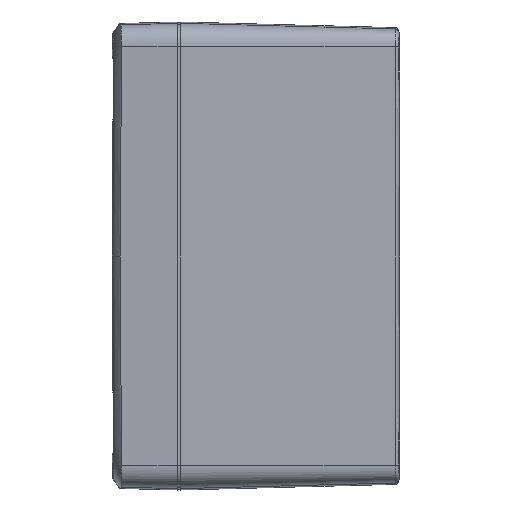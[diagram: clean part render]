
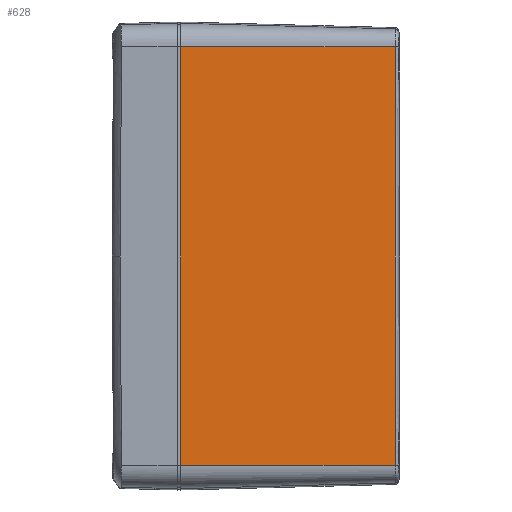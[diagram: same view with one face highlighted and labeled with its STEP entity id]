
A CAD part, left-side view. The second image highlights one B-rep face of the part: STEP entity #628.
In plain terms, the highlighted planar face has unit normal (-1, -0.026, 0).
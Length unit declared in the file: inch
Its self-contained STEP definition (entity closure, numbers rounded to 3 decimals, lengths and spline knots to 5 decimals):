
#628 = ADVANCED_FACE ( 'Face2', ( #113133 ), #113860, .T. ) ;
#3254 = CARTESIAN_POINT ( 'NONE',  ( -3.375, 2.34, 2.23495 ) ) ;
#6924 = CARTESIAN_POINT ( 'NONE',  ( -3.375, 2.34, -2.23495 ) ) ;
#7788 = VECTOR ( 'NONE', #17116, 39.37008 ) ;
#9216 = CARTESIAN_POINT ( 'NONE',  ( -3.375, 2.34, 2.23495 ) ) ;
#9347 = EDGE_CURVE ( 'NONE', #25286, #112970, #43589, .T. ) ;
#10745 = CARTESIAN_POINT ( 'NONE',  ( -3.375, 2.34, -2.23495 ) ) ;
#15050 = VECTOR ( 'NONE', #33855, 39.37008 ) ;
#17116 = DIRECTION ( 'NONE',  ( 0., 0., 1. ) ) ;
#19671 = CARTESIAN_POINT ( 'NONE',  ( -3.31495, 0.04673, 2.23495 ) ) ;
#25286 = VERTEX_POINT ( 'NONE', #3254 ) ;
#25904 = EDGE_LOOP ( 'NONE', ( #52602, #58739, #26932, #57320 ) ) ;
#26932 = ORIENTED_EDGE ( 'NONE', *, *, #9347, .F. ) ;
#27698 = B_SPLINE_CURVE_WITH_KNOTS ( 'NONE', 3,
 ( #66641, #145912, #136256, #19671 ),
 .UNSPECIFIED., .F., .F.,
 ( 4, 4 ),
 ( 0., 1. ),
 .UNSPECIFIED. ) ;
#31559 = DIRECTION ( 'NONE',  ( 0.026, -1., 0. ) ) ;
#33855 = DIRECTION ( 'NONE',  ( 0.026, -1., 0. ) ) ;
#40247 = CARTESIAN_POINT ( 'NONE',  ( -3.375, 2.34, -2.23495 ) ) ;
#42868 = DIRECTION ( 'NONE',  ( -1., -0.026, 0. ) ) ;
#43589 = LINE ( 'NONE', #9216, #15050 ) ;
#52602 = ORIENTED_EDGE ( 'NONE', *, *, #145801, .T. ) ;
#57320 = ORIENTED_EDGE ( 'NONE', *, *, #64965, .F. ) ;
#58739 = ORIENTED_EDGE ( 'NONE', *, *, #99280, .T. ) ;
#59807 = AXIS2_PLACEMENT_3D ( 'NONE', #10745, #42868, #134103 ) ;
#64965 = EDGE_CURVE ( 'NONE', #88086, #25286, #96286, .T. ) ;
#66641 = CARTESIAN_POINT ( 'NONE',  ( -3.31495, 0.04671, -2.23495 ) ) ;
#74574 = CARTESIAN_POINT ( 'NONE',  ( -3.31495, 0.04671, -2.23495 ) ) ;
#77111 = LINE ( 'NONE', #6924, #87285 ) ;
#87285 = VECTOR ( 'NONE', #31559, 39.37008 ) ;
#88086 = VERTEX_POINT ( 'NONE', #124240 ) ;
#96286 = LINE ( 'NONE', #40247, #7788 ) ;
#99280 = EDGE_CURVE ( 'NONE', #120567, #112970, #27698, .T. ) ;
#112970 = VERTEX_POINT ( 'NONE', #130879 ) ;
#113133 = FACE_OUTER_BOUND ( 'NONE', #25904, .T. ) ;
#113860 = PLANE ( 'NONE',  #59807 ) ;
#120567 = VERTEX_POINT ( 'NONE', #74574 ) ;
#124240 = CARTESIAN_POINT ( 'NONE',  ( -3.375, 2.34, -2.23495 ) ) ;
#130879 = CARTESIAN_POINT ( 'NONE',  ( -3.31495, 0.04673, 2.23495 ) ) ;
#134103 = DIRECTION ( 'NONE',  ( 0.026, -1., 0. ) ) ;
#136256 = CARTESIAN_POINT ( 'NONE',  ( -3.31495, 0.04673, 0.74498 ) ) ;
#145801 = EDGE_CURVE ( 'NONE', #88086, #120567, #77111, .T. ) ;
#145912 = CARTESIAN_POINT ( 'NONE',  ( -3.31495, 0.04673, -0.74498 ) ) ;
